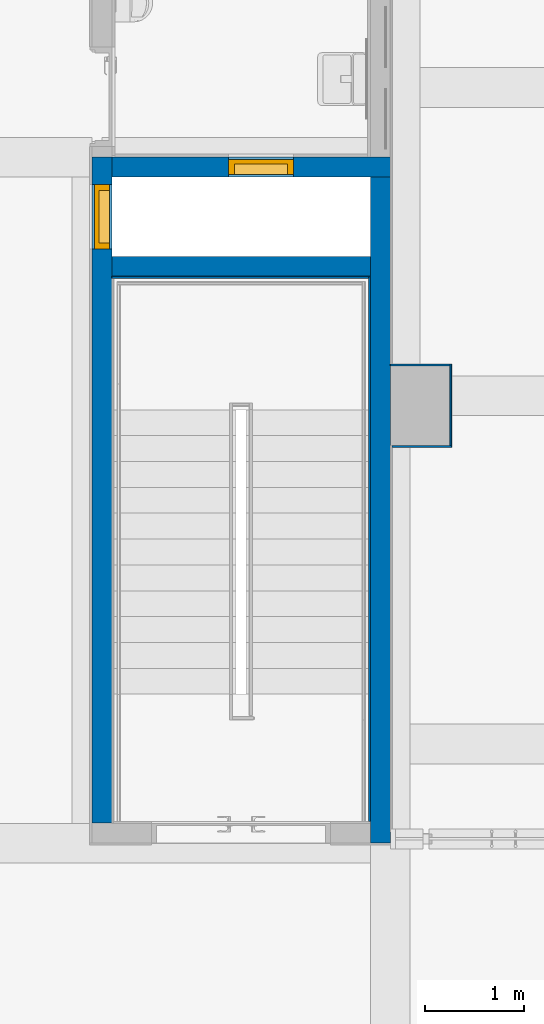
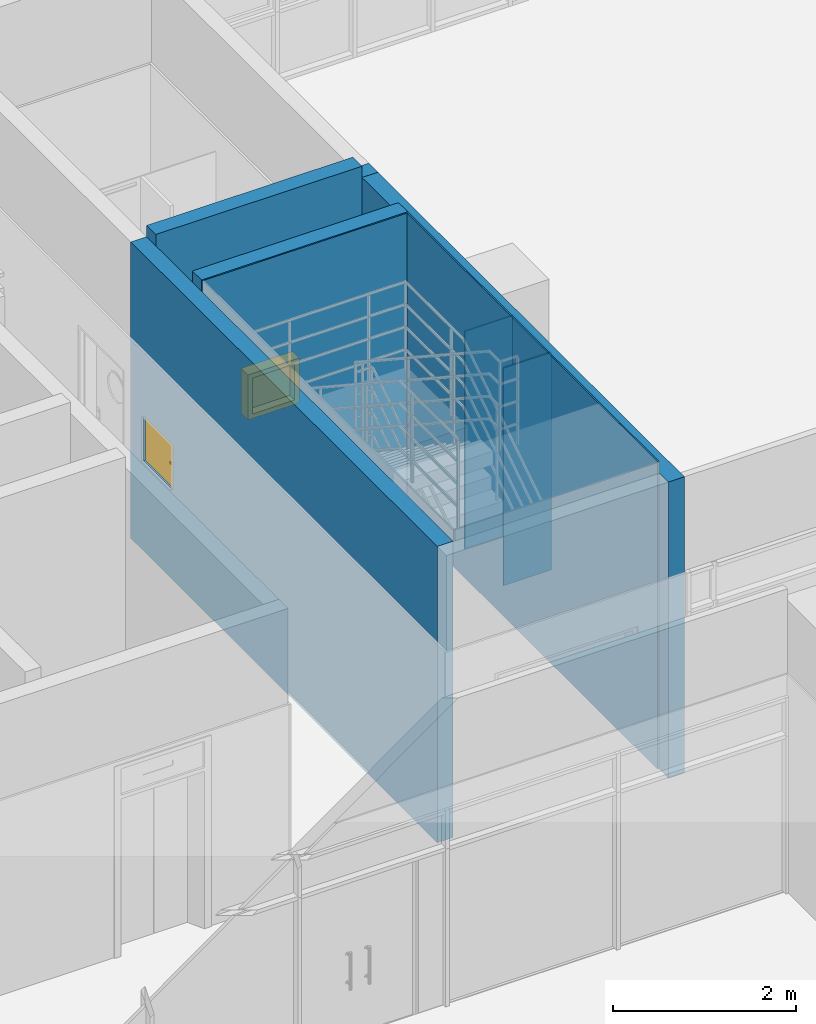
# One storey, part 53 of 76: 9 walls, 2 doors, 2 openings.
"""IFC2X3 building model written with IfcOpenShell, lengths in millimetres."""

from ifc_helpers import new_model, entity, si_unit, converted_unit, derived_unit, direction, frame, frame_2d, origin, place, context, subcontext, project, spatial, polyline, rectangle, extrude, clip, bounded_halfspace, faceted_brep, source, transform, mapped, material, material_list, layer, layer_set, layer_usage, type_object, type_shapes, element, fill, save


model = new_model("IFC2X3")

# Units and contexts
model_context = context("Model", 3, precision=0.01, world=origin(), true_north=direction((6.123031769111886e-17, 1.0)))
body_context = subcontext(model_context, "Body", "Model", "MODEL_VIEW")
ifc_project = project(units=[si_unit("LENGTHUNIT", "METRE", prefix="MILLI"), si_unit("AREAUNIT", "SQUARE_METRE"), si_unit("VOLUMEUNIT", "CUBIC_METRE"), converted_unit("PLANEANGLEUNIT", "DEGREE", entity("IfcRatioMeasure", 0.017453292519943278), si_unit("PLANEANGLEUNIT", "RADIAN"), dimensions=[0, 0, 0, 0, 0, 0, 0]), si_unit("MASSUNIT", "GRAM", prefix="KILO"), derived_unit("MASSDENSITYUNIT", [(si_unit("MASSUNIT", "GRAM", prefix="KILO"), 1), (si_unit("LENGTHUNIT", "METRE"), -3)]), derived_unit("MOMENTOFINERTIAUNIT", [(si_unit("LENGTHUNIT", "METRE"), 4)]), si_unit("TIMEUNIT", "SECOND"), si_unit("FREQUENCYUNIT", "HERTZ"), si_unit("THERMODYNAMICTEMPERATUREUNIT", "DEGREE_CELSIUS"), derived_unit("THERMALTRANSMITTANCEUNIT", [(si_unit("MASSUNIT", "GRAM", prefix="KILO"), 1), (si_unit("THERMODYNAMICTEMPERATUREUNIT", "KELVIN"), -1), (si_unit("TIMEUNIT", "SECOND"), -3)]), derived_unit("VOLUMETRICFLOWRATEUNIT", [(si_unit("LENGTHUNIT", "METRE"), 3), (si_unit("TIMEUNIT", "SECOND"), -1)]), derived_unit("MASSFLOWRATEUNIT", [(si_unit("MASSUNIT", "GRAM", prefix="KILO"), 1), (si_unit("TIMEUNIT", "SECOND"), -1)]), derived_unit("ROTATIONALFREQUENCYUNIT", [(si_unit("TIMEUNIT", "SECOND"), -1)]), si_unit("ELECTRICCURRENTUNIT", "AMPERE"), si_unit("ELECTRICVOLTAGEUNIT", "VOLT"), si_unit("POWERUNIT", "WATT"), si_unit("FORCEUNIT", "NEWTON", prefix="KILO"), si_unit("ILLUMINANCEUNIT", "LUX"), si_unit("LUMINOUSFLUXUNIT", "LUMEN"), si_unit("LUMINOUSINTENSITYUNIT", "CANDELA"), derived_unit("USERDEFINED", [(si_unit("MASSUNIT", "GRAM", prefix="KILO"), -1), (si_unit("LENGTHUNIT", "METRE"), -2), (si_unit("TIMEUNIT", "SECOND"), 3), (si_unit("LUMINOUSFLUXUNIT", "LUMEN"), 1)]), derived_unit("SOUNDPOWERUNIT", [(si_unit("MASSUNIT", "GRAM", prefix="KILO"), 1), (si_unit("LENGTHUNIT", "METRE"), 2), (si_unit("TIMEUNIT", "SECOND"), -3)]), derived_unit("SOUNDPRESSUREUNIT", [(si_unit("MASSUNIT", "GRAM", prefix="KILO"), 1), (si_unit("LENGTHUNIT", "METRE"), -1), (si_unit("TIMEUNIT", "SECOND"), -2)]), derived_unit("LINEARVELOCITYUNIT", [(si_unit("LENGTHUNIT", "METRE"), 1), (si_unit("TIMEUNIT", "SECOND"), -1)]), si_unit("PRESSUREUNIT", "PASCAL"), derived_unit("USERDEFINED", [(si_unit("LENGTHUNIT", "METRE"), -2), (si_unit("MASSUNIT", "GRAM", prefix="KILO"), 1), (si_unit("TIMEUNIT", "SECOND"), -2)]), derived_unit("LINEARFORCEUNIT", [(si_unit("MASSUNIT", "GRAM", prefix="KILO"), 1), (si_unit("LENGTHUNIT", "METRE"), 1), (si_unit("TIMEUNIT", "SECOND"), -2), (si_unit("LENGTHUNIT", "METRE"), -1)]), derived_unit("PLANARFORCEUNIT", [(si_unit("MASSUNIT", "GRAM", prefix="KILO"), 1), (si_unit("LENGTHUNIT", "METRE"), 1), (si_unit("TIMEUNIT", "SECOND"), -2), (si_unit("LENGTHUNIT", "METRE"), -2)])], contexts=[model_context])

# Site, building, storey
site_placement = place(None, frame((-14167.972527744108, -657.2125860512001, 0.0)))
site = spatial("IfcSite", under=ifc_project, at=site_placement, Name="Default", CompositionType="ELEMENT")
building_placement = place(site_placement, origin())
building = spatial("IfcBuilding", under=site, at=building_placement, Name="Sample Building", CompositionType="ELEMENT")
storey_placement = place(building_placement, frame((0.0, 0.0, 9300.0)))
storey = spatial("IfcBuildingStorey", under=building, at=storey_placement, Name="지상 3층", CompositionType="ELEMENT", Elevation=9300.000000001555)

# Wall, opening, door
ifc_material_1 = material(Name="KBIMS-콘크리트")
ifc_layer_1 = layer(ifc_material_1, 200.0)
ifc_layer_set_1 = layer_set([ifc_layer_1], Name="기본 벽:WA111-철근콘크리트구조 벽 200mm_CW1")
ifc_layer_usage_1 = layer_usage(ifc_layer_set_1, "AXIS2", "NEGATIVE", 100.0)
wall_type_1 = type_object("IfcWallType", Name="기본 벽:WA111-철근콘크리트구조 벽 200mm_CW1", PredefinedType="STANDARD", material=ifc_layer_set_1)
wall_1_placement = place(storey_placement, frame((38067.96379814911, 22457.212298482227, -2.297844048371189e-09), z_axis=(0.0, 0.0, 1.0), x_axis=(0.0, -1.0, 0.0)))
wall_1 = element("IfcWallStandardCase", 1, at=wall_1_placement, inside=storey, type_object=wall_type_1, material=ifc_layer_usage_1, Name="기본 벽:WA111-철근콘크리트구조 벽 200mm_CW1", ObjectType="기본 벽:WA111-철근콘크리트구조 벽 200mm_CW1", context=body_context, shape_type="Clipping", body=[
    clip(extrude(rectangle(XDim=6695.0000569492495, YDim=199.99999999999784, at=frame_2d((3347.5000284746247, 0.0), x_axis=(-1.0, 0.0))), origin(), (0.0, 0.0, 1.0), 3950.0000000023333), bounded_halfspace(frame((0.0, -100.0, 3950.0), z_axis=(0.0, 0.0, -1.0), x_axis=(0.0, 1.0, 0.0)), True, frame((0.0, -100.0, 3950.0), z_axis=(0.0, 0.0, -1.0), x_axis=(0.0, 1.0, 0.0)), polyline([(0.0, 0.0), (60960.0, 0.0), (60960.0, 2011680.0046911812), (60960.0, 2040636.0173581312), (0.0, 2040636.0173581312), (0.0, 60959.96004216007), (0.0, 0.0)]))),
])
opening_1_placement = place(wall_1_placement, frame((925.0346247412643, 100.0, 1200.0)))
opening_1 = element("IfcOpeningElement", 2, at=opening_1_placement, cuts=wall_1, Name="DR872-샤프트 점검구(스테인리스 스틸):DR872-샤프트 점검구(스테인리스 스틸)_650x600:1", ObjectType="Opening", context=body_context, shape_type="SweptSolid", body=[
    extrude(rectangle(XDim=600.0, YDim=649.9999999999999, at=frame_2d((300.0, 324.99999999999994), x_axis=(1.0, 0.0))), frame((0.0, 0.0, 0.0), z_axis=(0.0, -1.0, 0.0), x_axis=(0.0, 0.0, 1.0)), (0.0, 0.0, 1.0), 200.0),
])
ifc_material_2 = material(Name="KBIMS-스테인리스 스틸_도금")
ifc_material_list = material_list([ifc_material_2, ifc_material_2, ifc_material_2, ifc_material_2])
door_style = type_object("IfcDoorStyle", Name="DR872-샤프트 점검구(스테인리스 스틸):DR872-샤프트 점검구(스테인리스 스틸)_650x600", ConstructionType="NOTDEFINED", OperationType="SINGLE_SWING_LEFT", ParameterTakesPrecedence=False, Sizeable=False, material=ifc_material_list)
shared_shape = source(origin(), body_context, "Body", "Brep", [
    faceted_brep([(105.0, 125.0, 282.67949192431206), (109.1421356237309, 125.0, 285.85786437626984), (102.50000000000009, 125.0, 287.0096189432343), (98.8822856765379, 125.0, 285.51111260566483), (100.17638090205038, 125.0, 280.6814834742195), (105.6066017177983, 125.0, 289.39339828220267), (112.32050807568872, 125.0, 290.0), (107.99038105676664, 125.0, 292.50000000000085), (109.48888739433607, 125.0, 296.1177143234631), (114.31851652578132, 125.0, 294.82361909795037), (110.0, 125.0, 300.0), (115.0, 125.0, 300.0), (109.48888739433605, 125.0, 303.8822856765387), (114.31851652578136, 125.0, 305.17638090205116), (107.9903810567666, 125.0, 307.5000000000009), (112.32050807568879, 125.0, 310.0), (105.60660171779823, 125.0, 310.6066017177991), (109.14213562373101, 125.0, 314.1421356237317), (102.50000000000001, 125.0, 312.9903810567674), (105.0, 125.0, 317.32050807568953), (98.8822856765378, 125.0, 314.48888739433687), (100.17638090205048, 125.0, 319.3185165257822), (95.0, 125.0, 315.0), (95.0, 125.0, 320.0), (91.11771432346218, 125.0, 314.48888739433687), (89.82361909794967, 125.0, 319.31851652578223), (87.5, 125.0, 312.9903810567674), (85.0, 125.0, 317.32050807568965), (84.39339828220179, 125.0, 310.6066017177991), (80.85786437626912, 125.0, 314.14213562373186), (82.00961894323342, 125.0, 307.5000000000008), (77.6794919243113, 125.0, 310.0), (75.68148347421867, 125.0, 305.17638090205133), (80.51111260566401, 125.0, 303.88228567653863), (75.0, 125.0, 300.0), (80.0, 125.0, 300.0), (75.68148347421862, 125.0, 294.8236190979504), (80.51111260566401, 125.0, 296.1177143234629), (77.67949192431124, 125.0, 290.0), (82.00961894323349, 125.0, 292.50000000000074), (80.85786437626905, 125.0, 285.8578643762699), (84.39339828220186, 125.0, 289.39339828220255), (85.0, 125.0, 282.67949192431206), (87.50000000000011, 125.0, 287.0096189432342), (89.82361909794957, 125.0, 280.6814834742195), (91.11771432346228, 125.0, 285.5111126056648), (95.0, 125.0, 280.0), (95.0, 125.0, 285.0), (105.0, 130.0, 317.32050807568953), (109.14213562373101, 130.0, 314.1421356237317), (102.50000000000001, 130.0, 312.9903810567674), (98.8822856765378, 130.0, 314.48888739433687), (100.17638090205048, 130.0, 319.3185165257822), (105.60660171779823, 130.0, 310.6066017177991), (112.32050807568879, 130.0, 310.0), (107.9903810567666, 130.0, 307.5000000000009), (109.48888739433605, 130.0, 303.8822856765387), (114.31851652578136, 130.0, 305.17638090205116), (110.0, 130.0, 300.0), (115.0, 130.0, 300.0), (109.48888739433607, 130.0, 296.1177143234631), (114.31851652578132, 130.0, 294.82361909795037), (107.99038105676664, 130.0, 292.50000000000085), (112.32050807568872, 130.0, 290.0), (105.6066017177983, 130.0, 289.39339828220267), (109.1421356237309, 130.0, 285.85786437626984), (102.50000000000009, 130.0, 287.0096189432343), (105.0, 130.0, 282.67949192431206), (98.8822856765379, 130.0, 285.51111260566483), (100.17638090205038, 130.0, 280.6814834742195), (95.0, 130.0, 285.0), (95.0, 130.0, 280.0), (91.11771432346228, 130.0, 285.5111126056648), (89.82361909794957, 130.0, 280.6814834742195), (87.50000000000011, 130.0, 287.0096189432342), (85.0, 130.0, 282.67949192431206), (84.39339828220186, 130.0, 289.39339828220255), (80.85786437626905, 130.0, 285.8578643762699), (82.00961894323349, 130.0, 292.50000000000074), (77.67949192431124, 130.0, 290.0), (75.68148347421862, 130.0, 294.8236190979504), (80.51111260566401, 130.0, 296.1177143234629), (75.0, 130.0, 300.0), (80.0, 130.0, 300.0), (75.68148347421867, 130.0, 305.17638090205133), (80.51111260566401, 130.0, 303.88228567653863), (77.6794919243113, 130.0, 310.0), (82.00961894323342, 130.0, 307.5000000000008), (80.85786437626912, 130.0, 314.14213562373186), (84.39339828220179, 130.0, 310.6066017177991), (85.0, 130.0, 317.32050807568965), (87.5, 130.0, 312.9903810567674), (89.82361909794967, 130.0, 319.31851652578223), (91.11771432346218, 130.0, 314.48888739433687), (95.0, 130.0, 320.0), (95.0, 130.0, 315.0)], [[[0, 1, 2]], [[0, 2, 3]], [[3, 4, 0]], [[2, 1, 5]], [[6, 5, 1]], [[7, 5, 6]], [[8, 7, 6]], [[8, 6, 9]], [[8, 9, 10]], [[10, 9, 11]], [[12, 10, 11]], [[12, 11, 13]], [[14, 12, 13]], [[14, 13, 15]], [[16, 14, 15]], [[15, 17, 16]], [[17, 18, 16]], [[18, 17, 19]], [[18, 19, 20]], [[21, 20, 19]], [[20, 21, 22]], [[22, 21, 23]], [[23, 24, 22]], [[24, 23, 25]], [[24, 25, 26]], [[27, 26, 25]], [[27, 28, 26]], [[27, 29, 28]], [[30, 28, 29]], [[31, 30, 29]], [[32, 30, 31]], [[33, 30, 32]], [[33, 32, 34]], [[34, 35, 33]], [[36, 35, 34]], [[36, 37, 35]], [[37, 36, 38]], [[39, 37, 38]], [[39, 38, 40]], [[39, 40, 41]], [[40, 42, 41]], [[41, 42, 43]], [[43, 42, 44]], [[44, 45, 43]], [[46, 45, 44]], [[4, 47, 46]], [[45, 46, 47]], [[4, 3, 47]], [[48, 49, 50]], [[48, 50, 51]], [[51, 52, 48]], [[50, 49, 53]], [[54, 53, 49]], [[55, 53, 54]], [[56, 55, 54]], [[56, 54, 57]], [[56, 57, 58]], [[58, 57, 59]], [[60, 58, 59]], [[60, 59, 61]], [[62, 60, 61]], [[62, 61, 63]], [[64, 62, 63]], [[63, 65, 64]], [[65, 66, 64]], [[66, 65, 67]], [[66, 67, 68]], [[69, 68, 67]], [[68, 69, 70]], [[70, 69, 71]], [[71, 72, 70]], [[72, 71, 73]], [[72, 73, 74]], [[75, 74, 73]], [[75, 76, 74]], [[75, 77, 76]], [[78, 76, 77]], [[79, 78, 77]], [[80, 78, 79]], [[81, 78, 80]], [[81, 80, 82]], [[82, 83, 81]], [[84, 83, 82]], [[84, 85, 83]], [[85, 84, 86]], [[87, 85, 86]], [[87, 86, 88]], [[87, 88, 89]], [[88, 90, 89]], [[89, 90, 91]], [[91, 90, 92]], [[92, 93, 91]], [[94, 93, 92]], [[52, 95, 94]], [[93, 94, 95]], [[52, 51, 95]], [[10, 58, 60, 8]], [[8, 60, 62, 7]], [[2, 5, 64, 66]], [[62, 64, 5, 7]], [[3, 2, 66, 68]], [[70, 47, 3, 68]], [[45, 72, 74, 43]], [[43, 74, 76, 41]], [[37, 39, 78, 81]], [[76, 78, 39, 41]], [[35, 37, 81, 83]], [[45, 47, 70, 72]], [[35, 83, 85, 33]], [[33, 85, 87, 30]], [[26, 28, 89, 91]], [[87, 89, 28, 30]], [[24, 26, 91, 93]], [[95, 22, 24, 93]], [[20, 51, 50, 18]], [[18, 50, 53, 16]], [[12, 14, 55, 56]], [[53, 55, 14, 16]], [[10, 12, 56, 58]], [[20, 22, 95, 51]], [[57, 13, 11, 59]], [[54, 15, 13, 57]], [[19, 17, 49, 48]], [[54, 49, 17, 15]], [[21, 19, 48, 52]], [[23, 21, 52, 94]], [[92, 25, 23, 94]], [[90, 27, 25, 92]], [[31, 29, 88, 86]], [[90, 88, 29, 27]], [[32, 31, 86, 84]], [[34, 32, 84, 82]], [[80, 36, 34, 82]], [[79, 38, 36, 80]], [[42, 40, 77, 75]], [[79, 77, 40, 38]], [[44, 42, 75, 73]], [[46, 44, 73, 71]], [[69, 4, 46, 71]], [[67, 0, 4, 69]], [[6, 1, 65, 63]], [[67, 65, 1, 0]], [[9, 6, 63, 61]], [[11, 9, 61, 59]]]),
    faceted_brep([(85.0, 180.0, 282.67949192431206), (80.85786437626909, 180.0, 285.85786437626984), (87.49999999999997, 180.0, 287.0096189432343), (91.11771432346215, 180.0, 285.51111260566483), (89.8236190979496, 180.0, 280.6814834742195), (84.39339828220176, 180.0, 289.39339828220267), (77.67949192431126, 180.0, 290.0), (82.00961894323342, 180.0, 292.50000000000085), (80.51111260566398, 180.0, 296.1177143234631), (75.68148347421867, 180.0, 294.82361909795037), (80.0, 180.0, 300.0), (75.0, 180.0, 300.0), (80.51111260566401, 180.0, 303.8822856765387), (75.68148347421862, 180.0, 305.17638090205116), (82.00961894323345, 180.0, 307.5000000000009), (77.6794919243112, 180.0, 310.0), (84.39339828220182, 180.0, 310.6066017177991), (80.85786437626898, 180.0, 314.1421356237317), (87.50000000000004, 180.0, 312.9903810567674), (85.0, 180.0, 317.32050807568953), (91.11771432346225, 180.0, 314.48888739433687), (89.8236190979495, 180.0, 319.3185165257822), (95.0, 180.0, 315.0), (95.0, 180.0, 320.0), (98.88228567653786, 180.0, 314.48888739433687), (100.17638090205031, 180.0, 319.31851652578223), (102.50000000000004, 180.0, 312.9903810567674), (105.0, 180.0, 317.32050807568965), (105.60660171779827, 180.0, 310.6066017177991), (109.14213562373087, 180.0, 314.14213562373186), (107.99038105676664, 180.0, 307.5000000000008), (112.32050807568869, 180.0, 310.0), (114.31851652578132, 180.0, 305.17638090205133), (109.48888739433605, 180.0, 303.88228567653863), (115.0, 180.0, 300.0), (110.0, 180.0, 300.0), (114.31851652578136, 180.0, 294.8236190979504), (109.48888739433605, 180.0, 296.1177143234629), (112.32050807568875, 180.0, 290.0), (107.99038105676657, 180.0, 292.50000000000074), (109.14213562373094, 180.0, 285.8578643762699), (105.6066017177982, 180.0, 289.39339828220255), (105.0, 180.0, 282.67949192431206), (102.49999999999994, 180.0, 287.0096189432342), (100.17638090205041, 180.0, 280.6814834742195), (98.88228567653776, 180.0, 285.5111126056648), (95.0, 180.0, 280.0), (95.0, 180.0, 285.0), (85.0, 175.0, 317.32050807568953), (80.85786437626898, 175.0, 314.1421356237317), (87.50000000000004, 175.0, 312.9903810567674), (91.11771432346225, 175.0, 314.48888739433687), (89.8236190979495, 175.0, 319.3185165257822), (84.39339828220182, 175.0, 310.6066017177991), (77.6794919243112, 175.0, 310.0), (82.00961894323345, 175.0, 307.5000000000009), (80.51111260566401, 175.0, 303.8822856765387), (75.68148347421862, 175.0, 305.17638090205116), (80.0, 175.0, 300.0), (75.0, 175.0, 300.0), (80.51111260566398, 175.0, 296.1177143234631), (75.68148347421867, 175.0, 294.82361909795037), (82.00961894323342, 175.0, 292.50000000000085), (77.67949192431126, 175.0, 290.0), (84.39339828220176, 175.0, 289.39339828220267), (80.85786437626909, 175.0, 285.85786437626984), (87.49999999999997, 175.0, 287.0096189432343), (85.0, 175.0, 282.67949192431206), (91.11771432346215, 175.0, 285.51111260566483), (89.8236190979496, 175.0, 280.6814834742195), (95.0, 175.0, 285.0), (95.0, 175.0, 280.0), (98.88228567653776, 175.0, 285.5111126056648), (100.17638090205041, 175.0, 280.6814834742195), (102.49999999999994, 175.0, 287.0096189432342), (105.0, 175.0, 282.67949192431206), (105.6066017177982, 175.0, 289.39339828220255), (109.14213562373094, 175.0, 285.8578643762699), (107.99038105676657, 175.0, 292.50000000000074), (112.32050807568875, 175.0, 290.0), (114.31851652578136, 175.0, 294.8236190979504), (109.48888739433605, 175.0, 296.1177143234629), (115.0, 175.0, 300.0), (110.0, 175.0, 300.0), (114.31851652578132, 175.0, 305.17638090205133), (109.48888739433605, 175.0, 303.88228567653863), (112.32050807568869, 175.0, 310.0), (107.99038105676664, 175.0, 307.5000000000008), (109.14213562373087, 175.0, 314.14213562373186), (105.60660171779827, 175.0, 310.6066017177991), (105.0, 175.0, 317.32050807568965), (102.50000000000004, 175.0, 312.9903810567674), (100.17638090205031, 175.0, 319.31851652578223), (98.88228567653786, 175.0, 314.48888739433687), (95.0, 175.0, 320.0), (95.0, 175.0, 315.0)], [[[0, 1, 2]], [[0, 2, 3]], [[3, 4, 0]], [[2, 1, 5]], [[6, 5, 1]], [[7, 5, 6]], [[8, 7, 6]], [[8, 6, 9]], [[8, 9, 10]], [[10, 9, 11]], [[12, 10, 11]], [[12, 11, 13]], [[14, 12, 13]], [[14, 13, 15]], [[16, 14, 15]], [[15, 17, 16]], [[17, 18, 16]], [[18, 17, 19]], [[18, 19, 20]], [[21, 20, 19]], [[20, 21, 22]], [[22, 21, 23]], [[23, 24, 22]], [[24, 23, 25]], [[24, 25, 26]], [[27, 26, 25]], [[27, 28, 26]], [[27, 29, 28]], [[30, 28, 29]], [[31, 30, 29]], [[32, 30, 31]], [[33, 30, 32]], [[33, 32, 34]], [[34, 35, 33]], [[36, 35, 34]], [[36, 37, 35]], [[37, 36, 38]], [[39, 37, 38]], [[39, 38, 40]], [[39, 40, 41]], [[40, 42, 41]], [[41, 42, 43]], [[43, 42, 44]], [[44, 45, 43]], [[46, 45, 44]], [[4, 47, 46]], [[45, 46, 47]], [[4, 3, 47]], [[48, 49, 50]], [[48, 50, 51]], [[51, 52, 48]], [[50, 49, 53]], [[54, 53, 49]], [[55, 53, 54]], [[56, 55, 54]], [[56, 54, 57]], [[56, 57, 58]], [[58, 57, 59]], [[60, 58, 59]], [[60, 59, 61]], [[62, 60, 61]], [[62, 61, 63]], [[64, 62, 63]], [[63, 65, 64]], [[65, 66, 64]], [[66, 65, 67]], [[66, 67, 68]], [[69, 68, 67]], [[68, 69, 70]], [[70, 69, 71]], [[71, 72, 70]], [[72, 71, 73]], [[72, 73, 74]], [[75, 74, 73]], [[75, 76, 74]], [[75, 77, 76]], [[78, 76, 77]], [[79, 78, 77]], [[80, 78, 79]], [[81, 78, 80]], [[81, 80, 82]], [[82, 83, 81]], [[84, 83, 82]], [[84, 85, 83]], [[85, 84, 86]], [[87, 85, 86]], [[87, 86, 88]], [[87, 88, 89]], [[88, 90, 89]], [[89, 90, 91]], [[91, 90, 92]], [[92, 93, 91]], [[94, 93, 92]], [[52, 95, 94]], [[93, 94, 95]], [[52, 51, 95]], [[35, 83, 85, 33]], [[33, 85, 87, 30]], [[26, 28, 89, 91]], [[87, 89, 28, 30]], [[24, 26, 91, 93]], [[95, 22, 24, 93]], [[20, 51, 50, 18]], [[18, 50, 53, 16]], [[12, 14, 55, 56]], [[53, 55, 14, 16]], [[10, 12, 56, 58]], [[20, 22, 95, 51]], [[10, 58, 60, 8]], [[8, 60, 62, 7]], [[2, 5, 64, 66]], [[62, 64, 5, 7]], [[3, 2, 66, 68]], [[70, 47, 3, 68]], [[45, 72, 74, 43]], [[43, 74, 76, 41]], [[37, 39, 78, 81]], [[76, 78, 39, 41]], [[35, 37, 81, 83]], [[45, 47, 70, 72]], [[80, 36, 34, 82]], [[79, 38, 36, 80]], [[42, 40, 77, 75]], [[79, 77, 40, 38]], [[44, 42, 75, 73]], [[46, 44, 73, 71]], [[69, 4, 46, 71]], [[67, 0, 4, 69]], [[6, 1, 65, 63]], [[67, 65, 1, 0]], [[9, 6, 63, 61]], [[11, 9, 61, 59]], [[57, 13, 11, 59]], [[54, 15, 13, 57]], [[19, 17, 49, 48]], [[54, 49, 17, 15]], [[21, 19, 48, 52]], [[23, 21, 52, 94]], [[92, 25, 23, 94]], [[90, 27, 25, 92]], [[31, 29, 88, 86]], [[90, 88, 29, 27]], [[32, 31, 86, 84]], [[34, 32, 84, 82]]]),
    faceted_brep([(620.0, 175.0, 570.0), (30.0, 175.0, 570.0), (30.0, 130.0, 570.0), (620.0, 130.0, 570.0), (620.0, 175.0, 30.0), (620.0, 130.0, 30.0), (30.0, 130.0, 30.0), (30.0, 175.0, 30.0)], [[[0, 1, 2, 3]], [[4, 5, 6, 7]], [[1, 0, 4, 7]], [[2, 1, 7, 6]], [[3, 2, 6, 5]], [[0, 3, 5, 4]]]),
    faceted_brep([(30.0, 130.0, 570.0), (30.0, 175.0, 570.0), (620.0, 175.0, 570.0), (620.0, 130.0, 570.0), (60.0, 25.0, 540.0), (60.0, 130.0, 540.0), (590.0, 130.0, 540.0), (590.0, 25.0, 540.0), (0.0, 175.0, 600.0), (0.0, 25.0, 600.0), (650.0, 25.0, 600.0), (650.0, 175.0, 600.0), (620.0, 175.0, 30.0), (620.0, 130.0, 30.0), (590.0, 130.0, 60.0), (590.0, 25.0, 60.0), (650.0, 25.0, 0.0), (650.0, 175.0, 0.0), (30.0, 175.0, 30.0), (30.0, 130.0, 30.0), (60.0, 130.0, 60.0), (60.0, 25.0, 60.0), (0.0, 25.0, 0.0), (0.0, 175.0, 0.0)], [[[0, 1, 2, 3]], [[4, 5, 6, 7]], [[8, 9, 10, 11]], [[3, 2, 12, 13]], [[7, 6, 14, 15]], [[11, 10, 16, 17]], [[13, 12, 18, 19]], [[15, 14, 20, 21]], [[17, 16, 22, 23]], [[19, 18, 1, 0]], [[3, 13, 19, 0], [5, 20, 14, 6]], [[21, 20, 5, 4]], [[7, 15, 21, 4], [9, 22, 16, 10]], [[23, 22, 9, 8]], [[11, 17, 23, 8], [1, 18, 12, 2]]], outer=[[True], [True], [True], [True], [True], [True], [True], [True], [True], [True], [True, False], [True], [False, True], [True], [True, False]]),
])
type_shapes(door_style, [shared_shape])
door_1_placement = place(opening_1_placement, frame((0.0, 0.0, 2.2973836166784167e-09), z_axis=(0.0, 0.0, 1.0), x_axis=(-1.0, 0.0, 0.0)))
door_1 = element("IfcDoor", 3, at=door_1_placement, inside=storey, type_object=door_style, material=ifc_material_2, Name="DR872-샤프트 점검구(스테인리스 스틸):DR872-샤프트 점검구(스테인리스 스틸)_650x600", ObjectType="DR872-샤프트 점검구(스테인리스 스틸):DR872-샤프트 점검구(스테인리스 스틸)_650x600", OverallHeight=600.0, OverallWidth=649.9999999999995, context=body_context, shape_type="MappedRepresentation", body=[
    mapped(shared_shape, transform((0.0, 0.0, 0.0), scale=1.0)),
])
fill(opening_1, door_1)

ifc_layer_usage_2 = layer_usage(ifc_layer_set_1, "AXIS2", "NEGATIVE", 100.0)
wall_2_placement = place(storey_placement, frame((40967.963798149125, 22357.21229848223, -2.297844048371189e-09), z_axis=(0.0, 0.0, 1.0), x_axis=(-1.0, 0.0, 0.0)))
wall_2 = element("IfcWallStandardCase", 4, at=wall_2_placement, inside=storey, type_object=wall_type_1, material=ifc_layer_usage_2, Name="기본 벽:WA111-철근콘크리트구조 벽 200mm_CW1", ObjectType="기본 벽:WA111-철근콘크리트구조 벽 200mm_CW1", context=body_context, shape_type="Clipping", body=[
    clip(clip(extrude(rectangle(XDim=2800.000000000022, YDim=200.00000000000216, at=frame_2d((1400.000000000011, -1.8260948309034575e-12), x_axis=(-1.0, 0.0))), origin(), (0.0, 0.0, 1.0), 4100.000000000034), bounded_halfspace(frame((200.00869298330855, -100.0, 3950.0), z_axis=(0.0, 0.0, -1.0), x_axis=(0.0, 1.0, 0.0)), True, frame((200.00869298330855, -100.0, 3950.0), z_axis=(0.0, 0.0, -1.0), x_axis=(0.0, 1.0, 0.0)), polyline([(0.0, 2.633532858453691e-09), (0.0, -60962.64962131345), (60960.0, -60962.64962131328), (60960.0, 2.8098442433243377e-09), (0.0, 2.633532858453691e-09)]))), bounded_halfspace(frame((200.00869298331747, 100.0, 3950.0), z_axis=(1.0, 0.0, 0.0), x_axis=(0.0, 0.0, 1.0)), True, frame((200.00869298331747, 100.0, 3950.0), z_axis=(1.0, 0.0, 0.0), x_axis=(0.0, 0.0, 1.0)), polyline([(0.0, 0.0), (45720.0, 0.0), (45720.0, 60960.0), (0.0, 60960.0), (0.0, 0.0)]))),
])
opening_2_placement = place(wall_2_placement, frame((1624.991397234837, 100.0, 1200.0)))
opening_2 = element("IfcOpeningElement", 5, at=opening_2_placement, cuts=wall_2, Name="DR872-샤프트 점검구(스테인리스 스틸):DR872-샤프트 점검구(스테인리스 스틸)_650x600:1", ObjectType="Opening", context=body_context, shape_type="SweptSolid", body=[
    extrude(rectangle(XDim=600.0, YDim=649.9999999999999, at=frame_2d((300.0, 324.99999999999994), x_axis=(1.0, 0.0))), frame((0.0, 0.0, 0.0), z_axis=(0.0, -1.0, 0.0), x_axis=(0.0, 0.0, 1.0)), (0.0, 0.0, 1.0), 200.0),
])
door_2_placement = place(opening_2_placement, frame((0.0, 0.0, 2.2973836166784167e-09), z_axis=(0.0, 0.0, 1.0), x_axis=(-1.0, 0.0, 0.0)))
door_2 = element("IfcDoor", 6, at=door_2_placement, inside=storey, type_object=door_style, material=ifc_material_2, Name="DR872-샤프트 점검구(스테인리스 스틸):DR872-샤프트 점검구(스테인리스 스틸)_650x600", ObjectType="DR872-샤프트 점검구(스테인리스 스틸):DR872-샤프트 점검구(스테인리스 스틸)_650x600", OverallHeight=600.0, OverallWidth=649.9999999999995, context=body_context, shape_type="MappedRepresentation", body=[
    mapped(shared_shape, transform((0.0, 0.0, 0.0), scale=1.0)),
])
fill(opening_2, door_2)

# Walls
ifc_layer_usage_3 = layer_usage(ifc_layer_set_1, "AXIS2", "NEGATIVE", 100.0)
wall_3_placement = place(storey_placement, frame((40867.96379814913, 15562.21224153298, -2.297844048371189e-09), z_axis=(0.0, 0.0, 1.0), x_axis=(0.0, 1.0, 0.0)))
element("IfcWallStandardCase", 7, at=wall_3_placement, inside=storey, type_object=wall_type_1, material=ifc_layer_usage_3, Name="기본 벽:WA111-철근콘크리트구조 벽 200mm_CW1", ObjectType="기본 벽:WA111-철근콘크리트구조 벽 200mm_CW1", context=body_context, shape_type="Clipping", body=[
    clip(extrude(rectangle(XDim=6695.000056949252, YDim=199.99999999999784, at=frame_2d((3347.500028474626, 4.334310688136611e-12), x_axis=(-1.0, 0.0))), origin(), (0.0, 0.0, 1.0), 3950.0000000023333), bounded_halfspace(frame((6695.000056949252, -100.0, 3950.0), z_axis=(0.0, 0.0, -1.0), x_axis=(-1.0, 0.0, 0.0)), True, frame((6695.000056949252, -100.0, 3950.0), z_axis=(0.0, 0.0, -1.0), x_axis=(-1.0, 0.0, 0.0)), polyline([(0.0, 0.0), (579119.9029037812, 1.6372950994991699e-09), (822959.9029037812, 2.3259985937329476e-09), (2040636.0173581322, 5.7651845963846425e-09), (2040636.0173581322, 60960.0), (1979676.0173581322, 60960.0), (0.0, 60960.0), (0.0, 0.0)]))),
])
ifc_layer_usage_4 = layer_usage(ifc_layer_set_1, "AXIS2", "NEGATIVE", 100.0)
wall_4_placement = place(storey_placement, frame((38167.9637981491, 21357.212291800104, -2.297844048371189e-09)))
element("IfcWallStandardCase", 8, at=wall_4_placement, inside=storey, type_object=wall_type_1, material=ifc_layer_usage_4, Name="기본 벽:WA111-철근콘크리트구조 벽 200mm_CW1", ObjectType="기본 벽:WA111-철근콘크리트구조 벽 200mm_CW1", context=body_context, shape_type="SweptSolid", body=[
    extrude(rectangle(XDim=2600.000000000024, YDim=199.99999999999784, at=frame_2d((1300.000000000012, -1.6342482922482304e-13), x_axis=(-1.0, 0.0))), origin(), (0.0, 0.0, 1.0), 4100.000000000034),
])
ifc_material_3 = material(Name="WA611-수성페인트 (내부) 벽 (3회)")
ifc_layer_2 = layer(ifc_material_3, 1.0)
ifc_material_4 = material(Name="WA551-시멘트모르타르 (내부) 벽 18mm")
ifc_layer_3 = layer(ifc_material_4, 16.0)
ifc_material_5 = material(Name="WA555-콘크리트면정리 벽 (내부)")
ifc_layer_4 = layer(ifc_material_5, 1.0)
ifc_layer_set_2 = layer_set([ifc_layer_2, ifc_layer_3, ifc_layer_4], Name="기본 벽:A1-32-06A-콘크리트면정리, 시멘트모르타르(미장용), 수성페인트(내부) (18mm)")
ifc_layer_usage_5 = layer_usage(ifc_layer_set_2, "AXIS2", "POSITIVE", -9.000000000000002)
wall_type_2 = type_object("IfcWallType", Name="기본 벽:A1-32-06A-콘크리트면정리, 시멘트모르타르(미장용), 수성페인트(내부) (18mm)", PredefinedType="STANDARD", material=ifc_layer_set_2)
wall_5_placement = place(storey_placement, frame((38167.702784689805, 21248.2122918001, 0.0)))
element("IfcWallStandardCase", 9, at=wall_5_placement, inside=storey, type_object=wall_type_2, material=ifc_layer_usage_5, Name="기본 벽:A1-32-06A-콘크리트면정리, 시멘트모르타르(미장용), 수성페인트(내부) (18mm)", ObjectType="기본 벽:A1-32-06A-콘크리트면정리, 시멘트모르타르(미장용), 수성페인트(내부) (18mm)", context=body_context, shape_type="SweptSolid", body=[
    extrude(rectangle(XDim=2582.0086732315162, YDim=18.00000000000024, at=frame_2d((1291.0043366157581, -2.1662671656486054e-12), x_axis=(-1.0, 0.0))), origin(), (0.0, 0.0, 1.0), 4100.000000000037),
])
ifc_layer_usage_6 = layer_usage(ifc_layer_set_2, "AXIS2", "POSITIVE", -9.000000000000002)
wall_6_placement = place(storey_placement, frame((40758.71145792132, 21257.212291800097, 0.0), z_axis=(0.0, 0.0, 1.0), x_axis=(0.0, -1.0, 0.0)))
element("IfcWallStandardCase", 10, at=wall_6_placement, inside=storey, type_object=wall_type_2, material=ifc_layer_usage_6, Name="기본 벽:A1-32-06A-콘크리트면정리, 시멘트모르타르(미장용), 수성페인트(내부) (18mm)", ObjectType="기본 벽:A1-32-06A-콘크리트면정리, 시멘트모르타르(미장용), 수성페인트(내부) (18mm)", context=body_context, shape_type="SweptSolid", body=[
    extrude(rectangle(XDim=5481.999996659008, YDim=17.999999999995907, at=frame_2d((2740.999998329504, 0.0), x_axis=(-1.0, 0.0))), origin(), (0.0, 0.0, 1.0), 4100.000000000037),
])
ifc_layer_usage_7 = layer_usage(ifc_layer_set_2, "AXIS2", "POSITIVE", -9.000000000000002)
wall_7_placement = place(storey_placement, frame((40985.96379814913, 19548.212307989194, 80.0)))
element("IfcWallStandardCase", 11, at=wall_7_placement, inside=storey, type_object=wall_type_2, material=ifc_layer_usage_7, Name="기본 벽:A1-32-06A-콘크리트면정리, 시멘트모르타르(미장용), 수성페인트(내부) (18mm)", ObjectType="기본 벽:A1-32-06A-콘크리트면정리, 시멘트모르타르(미장용), 수성페인트(내부) (18mm)", context=body_context, shape_type="SweptSolid", body=[
    extrude(rectangle(XDim=599.747659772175, YDim=18.00000000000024, at=frame_2d((299.8738298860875, -2.1662671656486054e-12), x_axis=(-1.0, 0.0))), origin(), (0.0, 0.0, 1.0), 2899.999999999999),
])
ifc_layer_usage_8 = layer_usage(ifc_layer_set_2, "AXIS2", "POSITIVE", -9.000000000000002)
wall_8_placement = place(storey_placement, frame((41576.71145792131, 19557.212307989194, 80.0), z_axis=(0.0, 0.0, 1.0), x_axis=(0.0, 1.0, 0.0)))
element("IfcWallStandardCase", 12, at=wall_8_placement, inside=storey, type_object=wall_type_2, material=ifc_layer_usage_8, Name="기본 벽:A1-32-06A-콘크리트면정리, 시멘트모르타르(미장용), 수성페인트(내부) (18mm)", ObjectType="기본 벽:A1-32-06A-콘크리트면정리, 시멘트모르타르(미장용), 수성페인트(내부) (18mm)", context=body_context, shape_type="SweptSolid", body=[
    extrude(rectangle(XDim=818.0000000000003, YDim=17.999999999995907, at=frame_2d((409.00000000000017, 0.0), x_axis=(-1.0, 0.0))), origin(), (0.0, 0.0, 1.0), 2899.999999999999),
])
ifc_layer_usage_9 = layer_usage(ifc_layer_set_2, "AXIS2", "POSITIVE", -9.000000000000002)
wall_9_placement = place(storey_placement, frame((41567.71145792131, 20366.21230798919, 80.0), z_axis=(0.0, 0.0, 1.0), x_axis=(-1.0, 0.0, 0.0)))
element("IfcWallStandardCase", 13, at=wall_9_placement, inside=storey, type_object=wall_type_2, material=ifc_layer_usage_9, Name="기본 벽:A1-32-06A-콘크리트면정리, 시멘트모르타르(미장용), 수성페인트(내부) (18mm)", ObjectType="기본 벽:A1-32-06A-콘크리트면정리, 시멘트모르타르(미장용), 수성페인트(내부) (18mm)", context=body_context, shape_type="SweptSolid", body=[
    extrude(rectangle(XDim=599.7476597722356, YDim=18.00000000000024, at=frame_2d((299.8738298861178, -2.1662671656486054e-12), x_axis=(-1.0, 0.0))), origin(), (0.0, 0.0, 1.0), 2899.999999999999),
])

save(model, "model.ifc")
